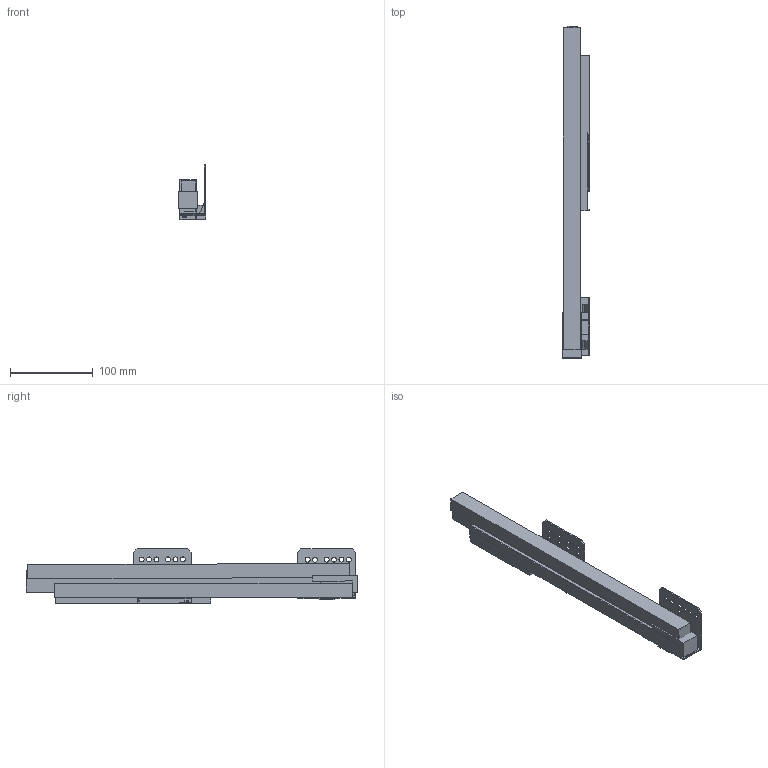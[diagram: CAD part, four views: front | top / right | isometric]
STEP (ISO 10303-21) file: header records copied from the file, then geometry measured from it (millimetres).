
FILE_DESCRIPTION (( 'STEP AP214' ), '1' );
FILE_NAME ('_IMOS Dynamic-XP VA 60kg NL400 RE.step', '2010-07-07T08:07:32', ( 'grass' ), ( '' ), 'SwSTEP 2.0', 'SolidWorks 2010', '' );
FILE_SCHEMA (( 'AUTOMOTIVE_DESIGN' ));
Length unit declared in the file: millimetre
Products named in the file (1): _IMOS Dynamic-XP VA 60kg NL400 RE
Bounding box: 32.79 x 401.95 x 66.67 mm (x, y, z)
Volume: 384320.6 mm3; surface area: 140063.5 mm2
Topology: 7 solids, 7 shells, 151 faces, 411 edges, 274 vertices
Faces by surface type: plane 111, cylinder 40
Entity records: 4913 total; most frequent: CARTESIAN_POINT 837, ORIENTED_EDGE 822, DIRECTION 795, EDGE_CURVE 411, LINE 331, VECTOR 331, VERTEX_POINT 274, AXIS2_PLACEMENT_3D 232
